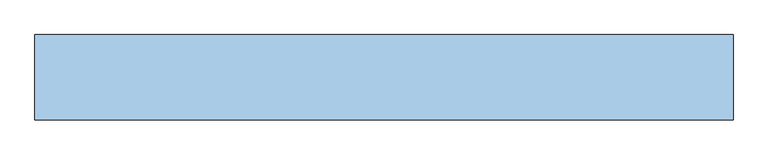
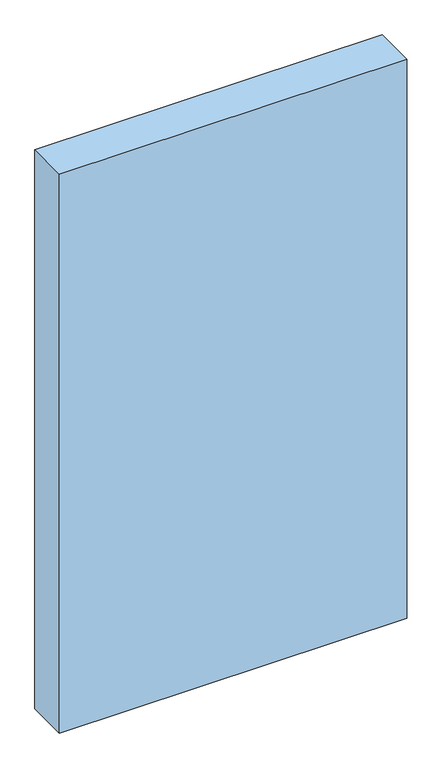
"""IFC4 building model written with IfcOpenShell, lengths in millimetres: window geometry, Dr_Проем-Четверти_об модель : ОК."""

import ifcopenshell
import ifcopenshell.guid

model = None  # the IFC model being written
_history = None  # IfcOwnerHistory: only IFC2X3 demands one
_inside = {}  # id of a spatial element -> (the spatial element, [elements in it])
_under = {}  # id of a project, library or spatial element -> (it, [spatial elements below it])
_declared = {}  # id of a project -> (the project, [libraries it declares])
_typed = {}  # id of a type object -> (the type object, [elements of that type])
_made_of = {}  # id of a material, layer set ... -> (it, [elements and type objects made of it])


def new_model(schema):
    """Start an empty IFC model of exactly this schema.

    Asked for "IFC4X3", IfcOpenShell would pick the latest addendum, in which some entities
    have other attributes; the version numbers below select the first issue.
    IFC2X3 requires an IfcOwnerHistory on every rooted entity: one is made here for all.
    """
    global model, _history
    if schema == "IFC4X3":
        model = ifcopenshell.file(schema_version=(4, 3, 0, 0))
    else:
        model = ifcopenshell.file(schema=schema)
    _inside.clear()
    _under.clear()
    _declared.clear()
    _typed.clear()
    _made_of.clear()
    _history = None
    if model.schema == "IFC2X3":
        org = make("IfcOrganization", Name="unknown")
        user = make(
            "IfcPersonAndOrganization",
            ThePerson=make("IfcPerson", FamilyName="unknown"),
            TheOrganization=org,
        )
        app = make(
            "IfcApplication",
            ApplicationDeveloper=org,
            Version="unknown",
            ApplicationFullName="unknown",
            ApplicationIdentifier="unknown",
        )
        _history = make(
            "IfcOwnerHistory",
            OwningUser=user,
            OwningApplication=app,
            ChangeAction="ADDED",
            CreationDate=0,
        )
    return model


def make(cls, **values):
    """One entity of the class cls with the attributes given. An attribute that is None is left unset."""
    return model.create_entity(
        cls, **{name: value for name, value in values.items() if value is not None}
    )


def rooted(cls, **values):
    """An entity with a GlobalId (a new one), such as an element, a storey or a relation."""
    return make(cls, GlobalId=ifcopenshell.guid.new(), OwnerHistory=_history, **values)


def si_unit(unit_type, name, prefix=None):
    """IfcSIUnit, for example si_unit("LENGTHUNIT", "METRE", prefix="MILLI")."""
    return make("IfcSIUnit", UnitType=unit_type, Prefix=prefix, Name=name)


def assignment(units):
    """IfcUnitAssignment: the units of a project."""
    return None if units is None else make("IfcUnitAssignment", Units=units)


def point(xyz):
    """IfcCartesianPoint."""
    return None if xyz is None else make("IfcCartesianPoint", Coordinates=xyz)


def direction(xyz):
    """IfcDirection."""
    return None if xyz is None else make("IfcDirection", DirectionRatios=xyz)


def frame(location, z_axis=None, x_axis=None):
    """IfcAxis2Placement3D, a coordinate frame: its origin and axes. An axis left out is left unset."""
    return make(
        "IfcAxis2Placement3D",
        Location=point(location),
        Axis=direction(z_axis),
        RefDirection=direction(x_axis),
    )


def origin():
    """The frame at (0, 0, 0) with its axes left unset."""
    return frame((0.0, 0.0, 0.0))


def place(relative_to, where):
    """IfcLocalPlacement: puts the frame where relative to a parent placement (None: the world)."""
    return make(
        "IfcLocalPlacement", PlacementRelTo=relative_to, RelativePlacement=where
    )


def context(
    kind, dimensions, precision=None, world=None, true_north=None, identifier=None
):
    """IfcGeometricRepresentationContext, for example the 3D "Model" context."""
    return make(
        "IfcGeometricRepresentationContext",
        ContextIdentifier=identifier,
        ContextType=kind,
        CoordinateSpaceDimension=dimensions,
        Precision=precision,
        WorldCoordinateSystem=world,
        TrueNorth=true_north,
    )


def project(units=None, contexts=None):
    """IfcProject with its units and contexts."""
    return rooted(
        "IfcProject",
        Name="project",
        RepresentationContexts=contexts,
        UnitsInContext=assignment(units),
    )


def spatial(cls, under=None, at=None, **own):
    """A site, building, storey or space (cls), placed at a placement, below another one or the project."""
    s = rooted(cls, ObjectPlacement=at, **own)
    if under is not None:
        _under.setdefault(under.id(), (under, []))[1].append(s)
    return s


def polyline(points):
    """IfcPolyline through the points."""
    return make("IfcPolyline", Points=[point(p) for p in points])


def outline(outer, holes=None, kind="AREA"):
    """IfcArbitraryClosedProfileDef: a profile drawn as a closed curve; with holes, ...WithVoids."""
    if holes is None:
        return make("IfcArbitraryClosedProfileDef", ProfileType=kind, OuterCurve=outer)
    return make(
        "IfcArbitraryProfileDefWithVoids",
        ProfileType=kind,
        OuterCurve=outer,
        InnerCurves=holes,
    )


def extrude(swept, where, along, depth):
    """IfcExtrudedAreaSolid: the profile swept, set in the frame where, extruded along a direction by depth."""
    return make(
        "IfcExtrudedAreaSolid",
        SweptArea=swept,
        Position=where,
        ExtrudedDirection=direction(along),
        Depth=depth,
    )


def shape(context_of_items, identifier, shape_type, items):
    """IfcShapeRepresentation: the items that make up one representation, for example the "Body"."""
    return make(
        "IfcShapeRepresentation",
        ContextOfItems=context_of_items,
        RepresentationIdentifier=identifier,
        RepresentationType=shape_type,
        Items=items,
    )


def source(mapping_origin, context_of_items, identifier, shape_type, items):
    """IfcRepresentationMap: a shape defined once, which mapped items show again and again."""
    return make(
        "IfcRepresentationMap",
        MappingOrigin=mapping_origin,
        MappedRepresentation=shape(context_of_items, identifier, shape_type, items),
    )


def transform(
    local_origin,
    x_axis=None,
    y_axis=None,
    z_axis=None,
    scale=None,
    scale2=None,
    scale3=None,
    uniform=True,
):
    """IfcCartesianTransformationOperator3D, or its non-uniform kind. x_axis, y_axis, z_axis: its Axis1, 2, 3."""
    if uniform:
        return make(
            "IfcCartesianTransformationOperator3D",
            Axis1=direction(x_axis),
            Axis2=direction(y_axis),
            LocalOrigin=point(local_origin),
            Scale=scale,
            Axis3=direction(z_axis),
        )
    return make(
        "IfcCartesianTransformationOperator3DnonUniform",
        Axis1=direction(x_axis),
        Axis2=direction(y_axis),
        LocalOrigin=point(local_origin),
        Scale=scale,
        Axis3=direction(z_axis),
        Scale2=scale2,
        Scale3=scale3,
    )


def mapped(mapping_source, mapping_target):
    """IfcMappedItem: shows the shape of a source again, moved by a transform."""
    return make(
        "IfcMappedItem", MappingSource=mapping_source, MappingTarget=mapping_target
    )


def made_of(thing, what):
    """Note that an element or type object is made of a material, layer set ...; save() writes the relation."""
    if what is not None:
        _made_of.setdefault(what.id(), (what, []))[1].append(thing)
    return thing


def element(
    cls,
    number,
    at=None,
    inside=None,
    cuts=None,
    type_object=None,
    material=None,
    context=None,
    identifier="Body",
    shape_type=None,
    held_by="IfcProductDefinitionShape",
    body=None,
    shapes=None,
    **own,
):
    """One element of the class cls, such as IfcWall. Its Tag is "e" and its number.

    at: its placement. inside: the storey or other place that contains it. cuts: it is an
    opening in that element (IfcRelVoidsElement). A single representation is given by context,
    identifier, shape_type and body (its items); several are given by shapes. held_by: the class
    of the entity that holds the representations. save() writes the other relations.
    """
    e = rooted(cls, Tag="e%d" % number, ObjectPlacement=at, **own)
    if body is not None:
        shapes = [shape(context, identifier, shape_type, body)]
    if shapes is not None:
        e.Representation = make(held_by, Representations=shapes)
    if inside is not None:
        _inside.setdefault(inside.id(), (inside, []))[1].append(e)
    if cuts is not None:
        rooted(
            "IfcRelVoidsElement", RelatingBuildingElement=cuts, RelatedOpeningElement=e
        )
    if type_object is not None:
        _typed.setdefault(type_object.id(), (type_object, []))[1].append(e)
    return made_of(e, material)


def aggregate(whole, parts):
    """IfcRelAggregates: a whole, such as a stair, and the parts it consists of."""
    return rooted("IfcRelAggregates", RelatingObject=whole, RelatedObjects=parts)


def save(model, path):
    """Write the relations noted so far, then the file.

    IfcRelAggregates (storeys below a building ...), IfcRelContainedInSpatialStructure (elements
    in a storey), IfcRelDefinesByType, IfcRelAssociatesMaterial and IfcRelDeclares: one each for
    every whole, place, type object, material and project.
    """
    for whole, parts in _under.values():
        aggregate(whole, parts)
    for where, things in _inside.values():
        rooted(
            "IfcRelContainedInSpatialStructure",
            RelatedElements=things,
            RelatingStructure=where,
        )
    for kind, things in _typed.values():
        rooted("IfcRelDefinesByType", RelatedObjects=things, RelatingType=kind)
    for what, things in _made_of.values():
        rooted("IfcRelAssociatesMaterial", RelatedObjects=things, RelatingMaterial=what)
    for by, libraries in _declared.values():
        rooted("IfcRelDeclares", RelatingContext=by, RelatedDefinitions=libraries)
    model.write(path)


def window_2a47e70d(model_context):
    return source(origin(), model_context, "Body", "SweptSolid", [
        extrude(outline(polyline([(955.0, 100.0), (955.0, -100.0), (-685.0, -100.0), (-685.0, 100.0), (955.0, 100.0)])), frame((0.0, 0.0, -70.0), z_axis=(0.0, 0.0, 1.0), x_axis=(1.0, 0.0, 0.0)), (0.0, 0.0, 1.0), 2790.0),
    ])


if __name__ == "__main__":
    model = new_model("IFC4")
    model_context = context("Model", 3, world=origin())
    ifc_project = project(units=[si_unit("LENGTHUNIT", "METRE", prefix="MILLI")], contexts=[model_context])
    site = spatial("IfcSite", under=ifc_project)
    building = spatial("IfcBuilding", under=site)
    placement = place(None, origin())
    window_shape = window_2a47e70d(model_context)
    element("IfcWindow", 1, ObjectType="Dr_Проем-Четверти_об модель : ОК", at=placement, inside=building, context=model_context, shape_type="MappedRepresentation", body=[
        mapped(window_shape, transform((0.0, 0.0, 0.0), x_axis=(1.0, 0.0, 0.0), y_axis=(0.0, 1.0, 0.0), z_axis=(0.0, 0.0, 1.0))),
    ])
    save(model, "model.ifc")
